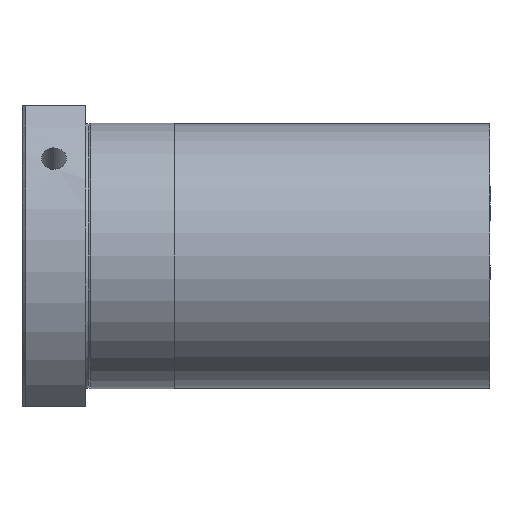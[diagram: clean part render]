
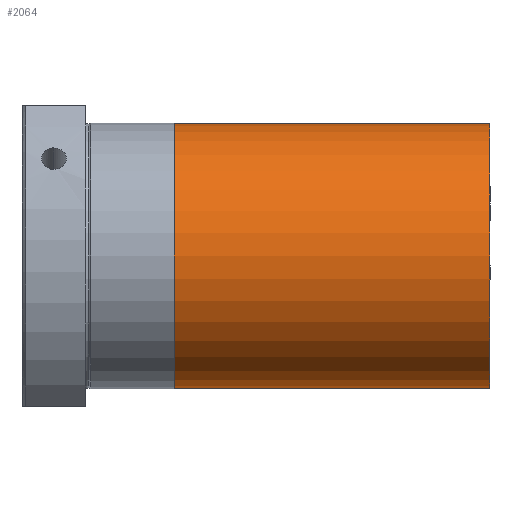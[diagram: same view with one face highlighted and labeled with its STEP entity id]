
A CAD part, front view. The second image highlights one B-rep face of the part: STEP entity #2064.
In plain terms, the highlighted cylindrical face has radius 37.35 mm (diameter 74.7 mm), a partial arc.
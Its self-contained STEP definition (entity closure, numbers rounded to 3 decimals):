
#134 = VECTOR ( 'NONE', #1237, 1000. ) ;
#268 = VERTEX_POINT ( 'NONE', #2531 ) ;
#577 = FACE_OUTER_BOUND ( 'NONE', #2146, .T. ) ;
#589 = AXIS2_PLACEMENT_3D ( 'NONE', #3126, #7117, #3701 ) ;
#595 = DIRECTION ( 'NONE',  ( -1., 0., 0. ) ) ;
#794 = CARTESIAN_POINT ( 'NONE',  ( -91.2, 0., -37.35 ) ) ;
#1135 = CARTESIAN_POINT ( 'NONE',  ( -46.531, 0., 0. ) ) ;
#1237 = DIRECTION ( 'NONE',  ( -1., 0., 0. ) ) ;
#1605 = CIRCLE ( 'NONE', #589, 37.35 ) ;
#1639 = CARTESIAN_POINT ( 'NONE',  ( -46.531, 0., 37.35 ) ) ;
#1704 = DIRECTION ( 'NONE',  ( 0., 0., 1. ) ) ;
#2064 = ADVANCED_FACE ( 'NONE', ( #577 ), #4972, .T. ) ;
#2106 = VERTEX_POINT ( 'NONE', #5339 ) ;
#2146 = EDGE_LOOP ( 'NONE', ( #5969, #6611, #3679, #3044 ) ) ;
#2275 = AXIS2_PLACEMENT_3D ( 'NONE', #5183, #595, #2451 ) ;
#2383 = VECTOR ( 'NONE', #5379, 1000. ) ;
#2451 = DIRECTION ( 'NONE',  ( 0., 0., 1. ) ) ;
#2531 = CARTESIAN_POINT ( 'NONE',  ( -46.531, 0., -37.35 ) ) ;
#2567 = LINE ( 'NONE', #794, #2383 ) ;
#2717 = VERTEX_POINT ( 'NONE', #1639 ) ;
#2734 = VERTEX_POINT ( 'NONE', #7399 ) ;
#3044 = ORIENTED_EDGE ( 'NONE', *, *, #4912, .F. ) ;
#3126 = CARTESIAN_POINT ( 'NONE',  ( 42.469, 0., 0. ) ) ;
#3181 = LINE ( 'NONE', #4126, #134 ) ;
#3524 = EDGE_CURVE ( 'NONE', #2106, #268, #2567, .T. ) ;
#3679 = ORIENTED_EDGE ( 'NONE', *, *, #5301, .T. ) ;
#3701 = DIRECTION ( 'NONE',  ( 0., 0., 1. ) ) ;
#4126 = CARTESIAN_POINT ( 'NONE',  ( -91.2, 0., 37.35 ) ) ;
#4786 = AXIS2_PLACEMENT_3D ( 'NONE', #1135, #5141, #1704 ) ;
#4912 = EDGE_CURVE ( 'NONE', #268, #2717, #5431, .T. ) ;
#4972 = CYLINDRICAL_SURFACE ( 'NONE', #2275, 37.35 ) ;
#5141 = DIRECTION ( 'NONE',  ( -1., 0., 0. ) ) ;
#5183 = CARTESIAN_POINT ( 'NONE',  ( -91.2, 0., 0. ) ) ;
#5301 = EDGE_CURVE ( 'NONE', #2734, #2717, #3181, .T. ) ;
#5339 = CARTESIAN_POINT ( 'NONE',  ( 42.469, 0., -37.35 ) ) ;
#5379 = DIRECTION ( 'NONE',  ( -1., 0., 0. ) ) ;
#5431 = CIRCLE ( 'NONE', #4786, 37.35 ) ;
#5660 = EDGE_CURVE ( 'NONE', #2106, #2734, #1605, .T. ) ;
#5969 = ORIENTED_EDGE ( 'NONE', *, *, #3524, .F. ) ;
#6611 = ORIENTED_EDGE ( 'NONE', *, *, #5660, .T. ) ;
#7117 = DIRECTION ( 'NONE',  ( -1., 0., 0. ) ) ;
#7399 = CARTESIAN_POINT ( 'NONE',  ( 42.469, 0., 37.35 ) ) ;
